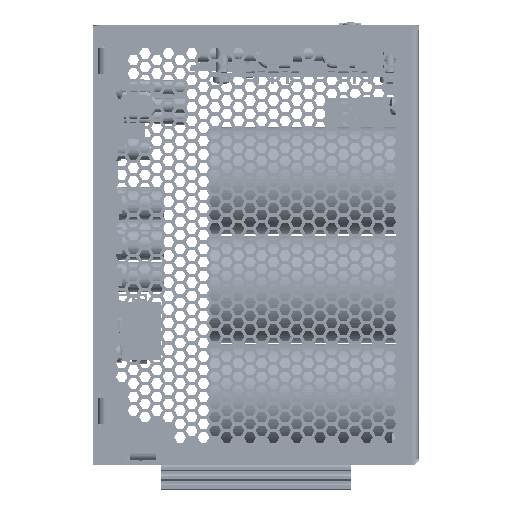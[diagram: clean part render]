
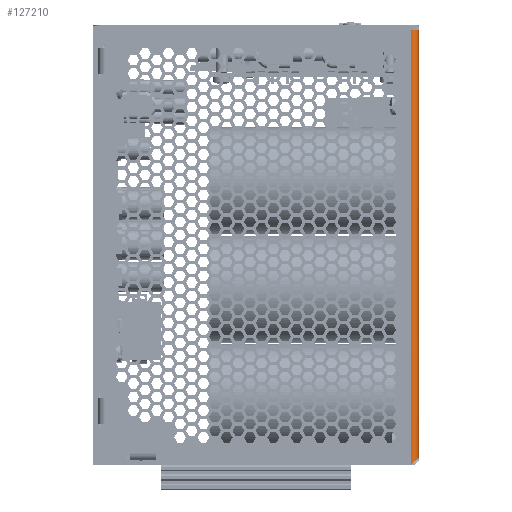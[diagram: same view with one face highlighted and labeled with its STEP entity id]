
A CAD part, front view. The second image highlights one B-rep face of the part: STEP entity #127210.
In plain terms, the highlighted cylindrical face has radius 2.5 mm (diameter 5 mm), a partial arc.
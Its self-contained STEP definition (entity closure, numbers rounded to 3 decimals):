
#4089 = CARTESIAN_POINT ( 'NONE',  ( 55.47, 2.102, -71.561 ) ) ;
#15475 = DIRECTION ( 'NONE',  ( 0., 0., -1. ) ) ;
#19096 = LINE ( 'NONE', #651532, #435000 ) ;
#22028 = EDGE_CURVE ( 'NONE', #634035, #949402, #120997, .T. ) ;
#86840 = DIRECTION ( 'NONE',  ( -1., 0., 0. ) ) ;
#113337 = ORIENTED_EDGE ( 'NONE', *, *, #119279, .T. ) ;
#116221 = CARTESIAN_POINT ( 'NONE',  ( 55.32, 1.57, -71.71 ) ) ;
#119279 = EDGE_CURVE ( 'NONE', #431181, #536726, #664085, .T. ) ;
#120997 = B_SPLINE_CURVE_WITH_KNOTS ( 'NONE', 3,
 ( #177765, #718501, #269454, #963057, #723558, #116221 ),
 .UNSPECIFIED., .F., .F.,
 ( 4, 2, 4 ),
 ( 0., 0.5, 1. ),
 .UNSPECIFIED. ) ;
#127210 = ADVANCED_FACE ( 'NONE', ( #943763 ), #413238, .T. ) ;
#177765 = CARTESIAN_POINT ( 'NONE',  ( 53., 0., -73.792 ) ) ;
#183012 = CARTESIAN_POINT ( 'NONE',  ( 53., 2.5, 74.25 ) ) ;
#193050 = DIRECTION ( 'NONE',  ( 0., 0., 1. ) ) ;
#219013 = CARTESIAN_POINT ( 'NONE',  ( 55.5, 2.5, 74.25 ) ) ;
#269454 = CARTESIAN_POINT ( 'NONE',  ( 53.99, 0.152, -73.098 ) ) ;
#294322 = CARTESIAN_POINT ( 'NONE',  ( 53., 0., 74.25 ) ) ;
#300270 = CARTESIAN_POINT ( 'NONE',  ( 55.482, 2.188, -71.569 ) ) ;
#321511 = AXIS2_PLACEMENT_3D ( 'NONE', #403181, #15475, #86840 ) ;
#363043 = DIRECTION ( 'NONE',  ( 0., 0., 1. ) ) ;
#371538 = CARTESIAN_POINT ( 'NONE',  ( 55.32, 1.57, -71.71 ) ) ;
#401797 = DIRECTION ( 'NONE',  ( 0., 0., 1. ) ) ;
#403181 = CARTESIAN_POINT ( 'NONE',  ( 53., 2.5, 148.533 ) ) ;
#413238 = CYLINDRICAL_SURFACE ( 'NONE', #321511, 2.5 ) ;
#414697 = EDGE_LOOP ( 'NONE', ( #720200, #516512, #662258, #113337, #528920 ) ) ;
#427682 = CIRCLE ( 'NONE', #932178, 2.5 ) ;
#431181 = VERTEX_POINT ( 'NONE', #774780 ) ;
#435000 = VECTOR ( 'NONE', #401797, 1000. ) ;
#502586 = CARTESIAN_POINT ( 'NONE',  ( 53., 0., -73.792 ) ) ;
#516512 = ORIENTED_EDGE ( 'NONE', *, *, #22028, .T. ) ;
#528920 = ORIENTED_EDGE ( 'NONE', *, *, #592650, .F. ) ;
#536726 = VERTEX_POINT ( 'NONE', #219013 ) ;
#574571 = B_SPLINE_CURVE_WITH_KNOTS ( 'NONE', 3,
 ( #1003776, #611474, #687929, #4089, #300270, #835804, #993752, #855851 ),
 .UNSPECIFIED., .F., .F.,
 ( 4, 2, 2, 4 ),
 ( 0., 0.5, 0.75, 1. ),
 .UNSPECIFIED. ) ;
#592650 = EDGE_CURVE ( 'NONE', #990422, #536726, #427682, .T. ) ;
#611474 = CARTESIAN_POINT ( 'NONE',  ( 55.367, 1.685, -71.623 ) ) ;
#634035 = VERTEX_POINT ( 'NONE', #502586 ) ;
#651532 = CARTESIAN_POINT ( 'NONE',  ( 53., 0., -74.25 ) ) ;
#653879 = VECTOR ( 'NONE', #363043, 1000. ) ;
#662258 = ORIENTED_EDGE ( 'NONE', *, *, #711149, .T. ) ;
#664085 = LINE ( 'NONE', #817065, #653879 ) ;
#687929 = CARTESIAN_POINT ( 'NONE',  ( 55.419, 1.845, -71.571 ) ) ;
#711149 = EDGE_CURVE ( 'NONE', #949402, #431181, #574571, .T. ) ;
#718501 = CARTESIAN_POINT ( 'NONE',  ( 53.496, 0., -73.445 ) ) ;
#720200 = ORIENTED_EDGE ( 'NONE', *, *, #955074, .F. ) ;
#723558 = CARTESIAN_POINT ( 'NONE',  ( 55.136, 1.11, -72.057 ) ) ;
#723771 = DIRECTION ( 'NONE',  ( -1., 0., 0. ) ) ;
#774780 = CARTESIAN_POINT ( 'NONE',  ( 55.5, 2.5, -71.675 ) ) ;
#817065 = CARTESIAN_POINT ( 'NONE',  ( 55.5, 2.5, 74.25 ) ) ;
#835804 = CARTESIAN_POINT ( 'NONE',  ( 55.497, 2.355, -71.607 ) ) ;
#855851 = CARTESIAN_POINT ( 'NONE',  ( 55.5, 2.5, -71.675 ) ) ;
#932178 = AXIS2_PLACEMENT_3D ( 'NONE', #183012, #193050, #723771 ) ;
#943763 = FACE_OUTER_BOUND ( 'NONE', #414697, .T. ) ;
#949402 = VERTEX_POINT ( 'NONE', #371538 ) ;
#955074 = EDGE_CURVE ( 'NONE', #634035, #990422, #19096, .T. ) ;
#963057 = CARTESIAN_POINT ( 'NONE',  ( 54.811, 0.707, -72.404 ) ) ;
#990422 = VERTEX_POINT ( 'NONE', #294322 ) ;
#993752 = CARTESIAN_POINT ( 'NONE',  ( 55.5, 2.431, -71.636 ) ) ;
#1003776 = CARTESIAN_POINT ( 'NONE',  ( 55.32, 1.57, -71.71 ) ) ;
